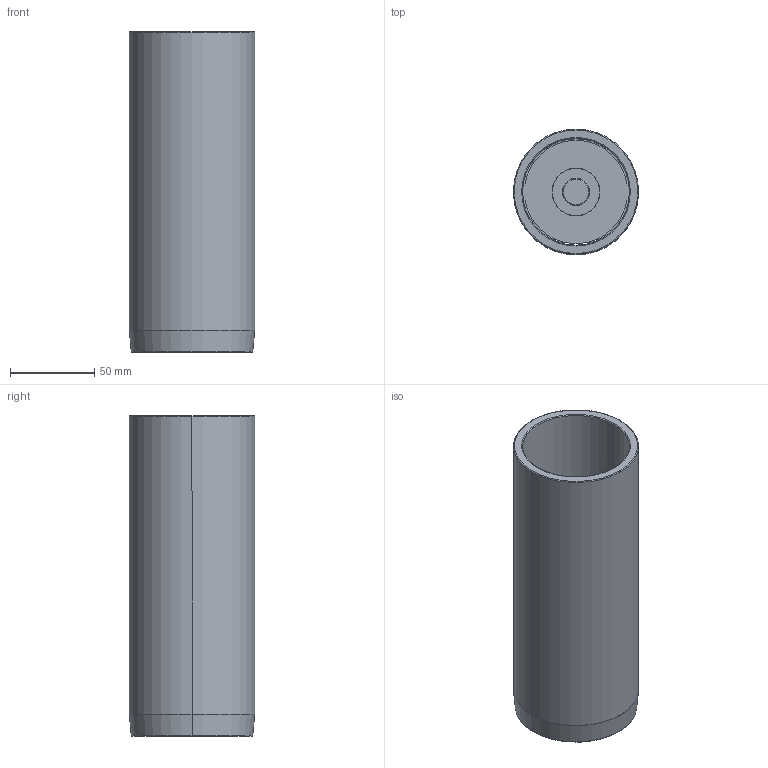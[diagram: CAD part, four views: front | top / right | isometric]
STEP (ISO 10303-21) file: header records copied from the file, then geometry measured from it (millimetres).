
FILE_DESCRIPTION((''),'2;1');
FILE_NAME('C12_063_190.stp','2009-01-29T09:35:02',(''),(''),'Mechanical Desktop 2009','Mechanical Desktop 2009',', , ');
FILE_SCHEMA(('CONFIG_CONTROL_DESIGN'));
Length unit declared in the file: millimetre
Products named in the file (2): Product; blmdl1
Assembly tree (1 placements, depth 2):
  Product
    blmdl1
Bounding box: 74.25 x 74.25 x 190 mm (x, y, z)
Volume: 236614.6 mm3; surface area: 98711.9 mm2
Topology: 5 solids, 5 shells, 79 faces, 200 edges, 134 vertices
Faces by surface type: cylinder 34, plane 29, torus 10, cone 6
Entity records: 2585 total; most frequent: DIRECTION 480, CARTESIAN_POINT 435, ORIENTED_EDGE 400, AXIS2_PLACEMENT_3D 203, EDGE_CURVE 200, VERTEX_POINT 134, CIRCLE 122, EDGE_LOOP 92
